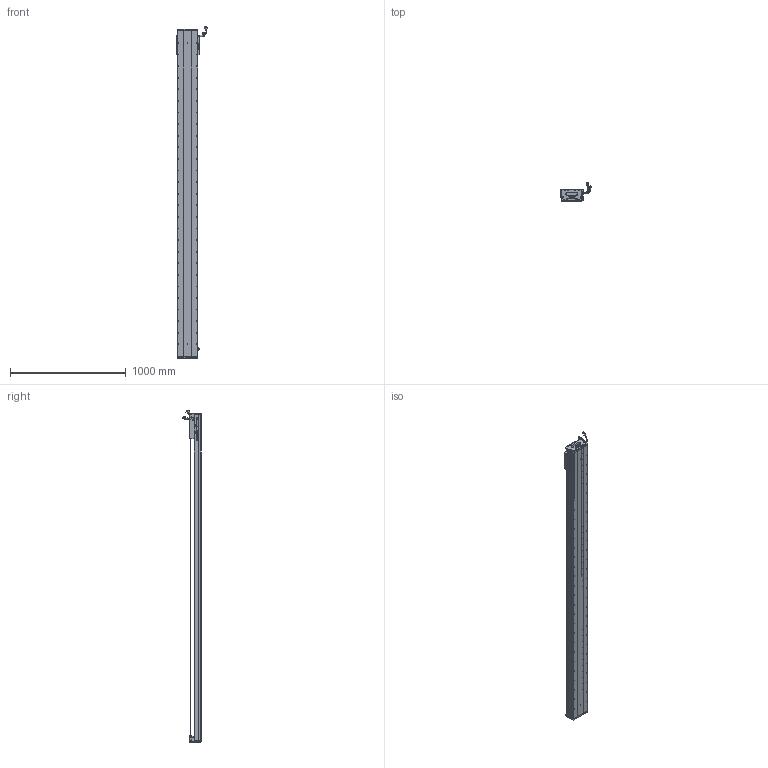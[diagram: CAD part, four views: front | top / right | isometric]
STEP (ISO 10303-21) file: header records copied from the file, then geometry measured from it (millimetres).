
FILE_DESCRIPTION (( 'STEP AP203' ), '1' );
FILE_NAME ('Z2-RY170D-1-L500-B-K.SLDASM_2550.step', '2021-05-17T09:11:16', ( '盈信电脑' ), ( '东莞市道滘镇水果街19号' ), 'SwSTEP 2.0', 'SolidWorks 2016', '' );
FILE_SCHEMA (( 'CONFIG_CONTROL_DESIGN' ));
Length unit declared in the file: millimetre
Products named in the file (36): LABEL; COVER; Z-170詩湍傷裔啣; HARNESS-Part-2; Z-RY170詩湍奻揤裔; 榋妏寠巭燃_暯_M2_2; SCALE-Part-2; 覜茼ん672; SCREW-M1.7-1; SCREW-M1.6-3; 080黍杅芛假蚾釱21遴; Z2-RY170臏賑輸(21遴); 140蚥薯蝶輸; Z2-RY170D-1-L500-B-K.SLDASM_2550; SEAL; SCREW-M1.6-1; RY170直线电机感应器672光电感应片; SCALE-Part-1; SCREW-M1.7; 170-Z-臏賑輸盄裔(21遴); HOLDER0; SCALE; HARNESS; SHIELDPLATE; SCREW-M1.6-2; SEAL-Part-1; Z-RY170詩湍狟揤裔; PSLH080_PSLF2; Z2-RY170-L500詩湍145mm遵_2550; HARNESS-Part-1; Z2-RY170-L500耀郪菁釱_2550; 140雄赽晤鎢ん堤盄; COVER-Part-1; SCREW-M1.6; PBU_SHEET; LABEL-Part-1
Assembly tree (41 placements, depth 4):
  Z2-RY170D-1-L500-B-K.SLDASM_2550
    Z2-RY170-L500耀郪菁釱_2550
    RY170直线电机感应器672光电感应片
    Z2-RY170臏賑輸(21遴)
    覜茼ん672  x3
    PSLH080_PSLF2
      SCALE
        SCALE-Part-1
        SCALE-Part-2
      HARNESS
        HARNESS-Part-1
        HARNESS-Part-2
      LABEL
        LABEL-Part-1
      COVER
        COVER-Part-1
      SEAL
        SEAL-Part-1
      榋妏寠巭燃_暯_M2_2
      SHIELDPLATE
      SCREW-M1.7
      SCREW-M1.7-1
      PBU_SHEET
      SCREW-M1.6
      SCREW-M1.6-1
      SCREW-M1.6-2
      SCREW-M1.6-3
      HOLDER0
    080黍杅芛假蚾釱21遴
    Z2-RY170-L500詩湍145mm遵_2550
    Z-170詩湍傷裔啣  x2
    Z-RY170詩湍奻揤裔  x2
    Z-RY170詩湍狟揤裔  x2
    140蚥薯蝶輸  x2
    170-Z-臏賑輸盄裔(21遴)
    140雄赽晤鎢ん堤盄
Bounding box: 275.29 x 158.11 x 2863.72 mm (x, y, z)
Volume: 13887964.7 mm3; surface area: 3444922.7 mm2
Topology: 36 solids, 36 shells, 4172 faces, 11599 edges, 7237 vertices
Faces by surface type: cylinder 2118, plane 1328, cone 604, torus 69, bspline 53
Entity records: 132083 total; most frequent: CARTESIAN_POINT 37206, ORIENTED_EDGE 19594, DIRECTION 18189, EDGE_CURVE 9797, AXIS2_PLACEMENT_3D 6710, VERTEX_POINT 6355, VECTOR 4769, LINE 4769
